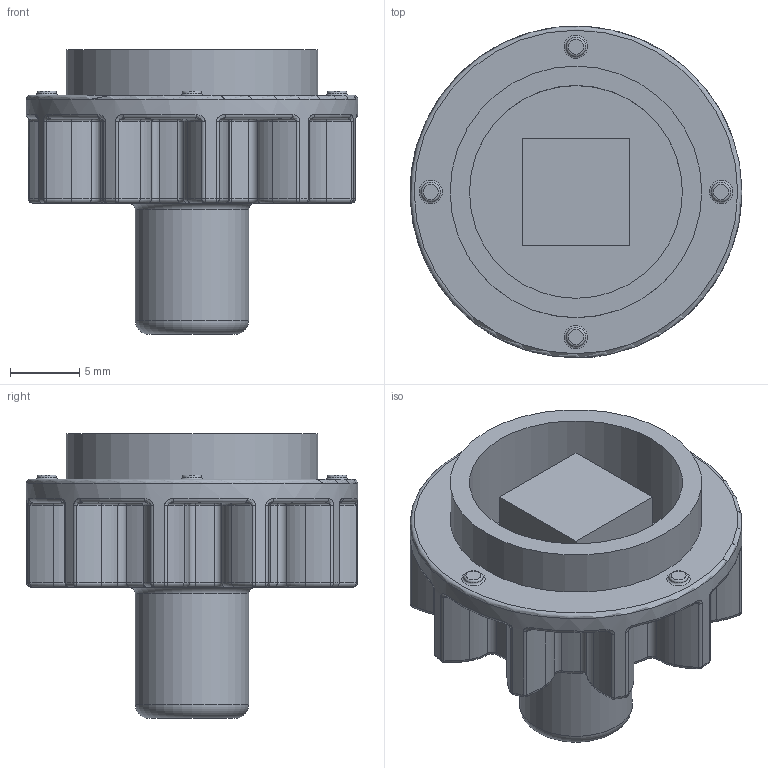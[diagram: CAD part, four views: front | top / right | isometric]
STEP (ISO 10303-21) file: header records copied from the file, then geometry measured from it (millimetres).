
FILE_DESCRIPTION (( 'STEP AP203' ), '1' );
FILE_NAME ('R5NCE212.STEP', '2024-11-25T06:54:06', ( '' ), ( '' ), 'SwSTEP 2.0', 'SolidWorks 2022', '' );
FILE_SCHEMA (( 'CONFIG_CONTROL_DESIGN' ));
Length unit declared in the file: millimetre
Products named in the file (2): R5NCE212; RB.2728.00.00.0_-01
Assembly tree (1 placements, depth 2):
  R5NCE212
    RB.2728.00.00.0_-01
Bounding box: 23.99 x 23.99 x 20.6 mm (x, y, z)
Volume: 2924.7 mm3; surface area: 2758.9 mm2
Topology: 1 solids, 1 shells, 337 faces, 763 edges, 430 vertices
Faces by surface type: torus 174, cylinder 96, plane 26, bspline 20, sphere 20, cone 1
Full cylindrical faces by diameter (mm): 3 x1, 4.8 x1, 8.2 x1, 15.4 x1, 18.2 x1, 24 x1
Entity records: 9922 total; most frequent: CARTESIAN_POINT 2141, DIRECTION 1894, ORIENTED_EDGE 1444, AXIS2_PLACEMENT_3D 891, EDGE_CURVE 722, CIRCLE 570, VERTEX_POINT 418, EDGE_LOOP 368
